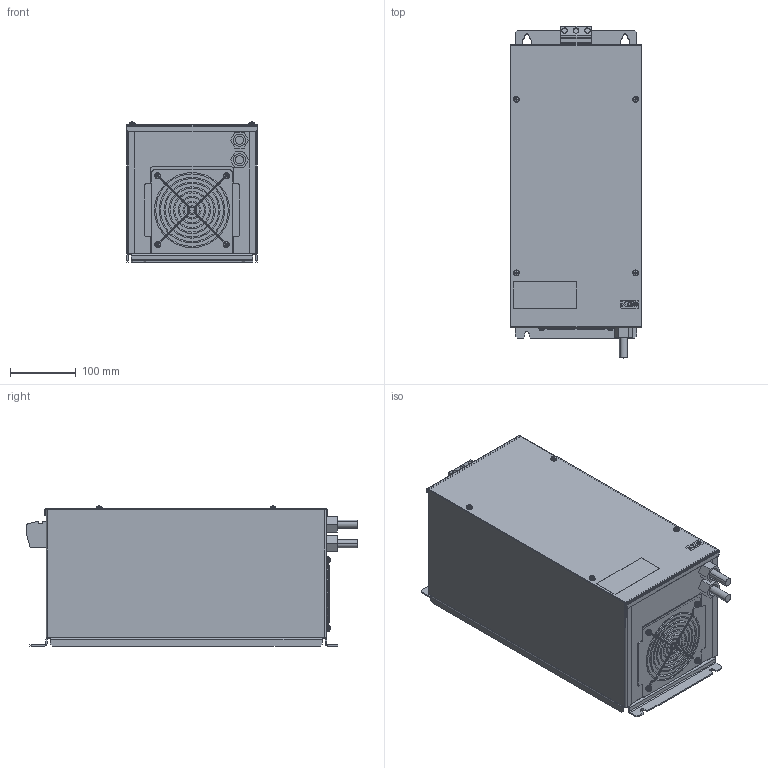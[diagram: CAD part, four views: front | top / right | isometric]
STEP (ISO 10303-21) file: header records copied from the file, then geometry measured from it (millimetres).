
FILE_DESCRIPTION (( 'STEP AP214' ), '1' );
FILE_NAME ('19H6J4E-1000.STEP', '2010-12-09T09:57:27', ( 'KEB' ), ( 'Karl E. Brinkmann GmbH' ), 'SwSTEP 2.0', 'SolidWorks 2007', '' );
FILE_SCHEMA (( 'AUTOMOTIVE_DESIGN' ));
Length unit declared in the file: millimetre
Products named in the file (1): 19H6J4E-1000
Bounding box: 199 x 506.8 x 213.79 mm (x, y, z)
Volume: 718144.8 mm3; surface area: 944077.7 mm2
Topology: 23 solids, 23 shells, 801 faces, 2089 edges, 1324 vertices
Faces by surface type: plane 415, cylinder 222, torus 120, cone 16, sphere 16, bspline 12
Entity records: 35011 total; most frequent: CARTESIAN_POINT 5651, DIRECTION 4449, ORIENTED_EDGE 4178, EDGE_CURVE 2089, AXIS2_PLACEMENT_3D 1674, VERTEX_POINT 1324, LINE 1101, VECTOR 1101
